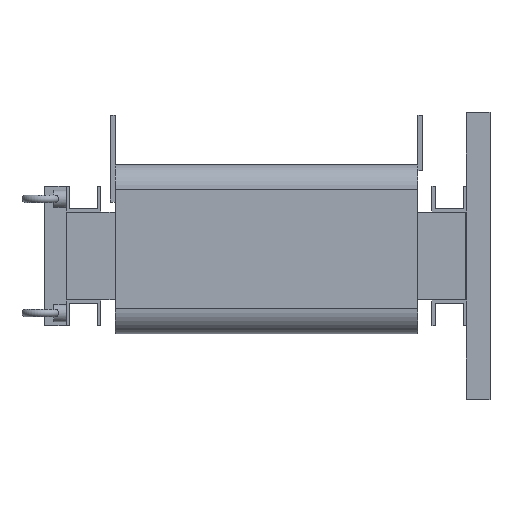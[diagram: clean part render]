
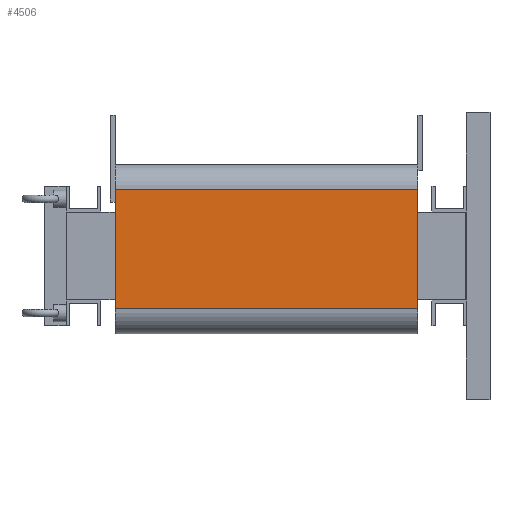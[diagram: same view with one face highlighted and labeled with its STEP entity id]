
A CAD part, left-side view. The second image highlights one B-rep face of the part: STEP entity #4506.
In plain terms, the highlighted planar face has unit normal (-1, 0, 0).
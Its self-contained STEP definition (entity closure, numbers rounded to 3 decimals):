
#429=LINE('',#7498,#945);
#449=LINE('',#7551,#965);
#450=LINE('',#7554,#966);
#451=LINE('',#7555,#967);
#945=VECTOR('',#5864,10.);
#965=VECTOR('',#5912,10.);
#966=VECTOR('',#5915,10.);
#967=VECTOR('',#5916,10.);
#1235=PLANE('',#4856);
#1538=FACE_OUTER_BOUND('',#1828,.T.);
#1828=EDGE_LOOP('',(#4053,#4054,#4055,#4056));
#2324=VERTEX_POINT('',#7495);
#2325=VERTEX_POINT('',#7497);
#2344=VERTEX_POINT('',#7549);
#2345=VERTEX_POINT('',#7553);
#2912=EDGE_CURVE('',#2324,#2325,#429,.T.);
#2940=EDGE_CURVE('',#2344,#2324,#449,.T.);
#2941=EDGE_CURVE('',#2344,#2345,#450,.T.);
#2942=EDGE_CURVE('',#2325,#2345,#451,.T.);
#4053=ORIENTED_EDGE('',*,*,#2940,.F.);
#4054=ORIENTED_EDGE('',*,*,#2941,.T.);
#4055=ORIENTED_EDGE('',*,*,#2942,.F.);
#4056=ORIENTED_EDGE('',*,*,#2912,.F.);
#4506=ADVANCED_FACE('',(#1538),#1235,.T.);
#4856=AXIS2_PLACEMENT_3D('',#7552,#5913,#5914);
#5864=DIRECTION('',(0.,0.,1.));
#5912=DIRECTION('',(0.,1.,0.));
#5913=DIRECTION('center_axis',(-1.,0.,0.));
#5914=DIRECTION('ref_axis',(0.,0.,1.));
#5915=DIRECTION('',(0.,0.,1.));
#5916=DIRECTION('',(0.,-1.,0.));
#7495=CARTESIAN_POINT('',(-299.,562.5,-84.5));
#7497=CARTESIAN_POINT('',(-299.,562.5,106.5));
#7498=CARTESIAN_POINT('',(-299.,562.5,-124.5));
#7549=CARTESIAN_POINT('',(-299.,77.5,-84.5));
#7551=CARTESIAN_POINT('',(-299.,77.5,-84.5));
#7552=CARTESIAN_POINT('Origin',(-299.,77.5,-124.5));
#7553=CARTESIAN_POINT('',(-299.,77.5,106.5));
#7554=CARTESIAN_POINT('',(-299.,77.5,-124.5));
#7555=CARTESIAN_POINT('',(-299.,77.5,106.5));
